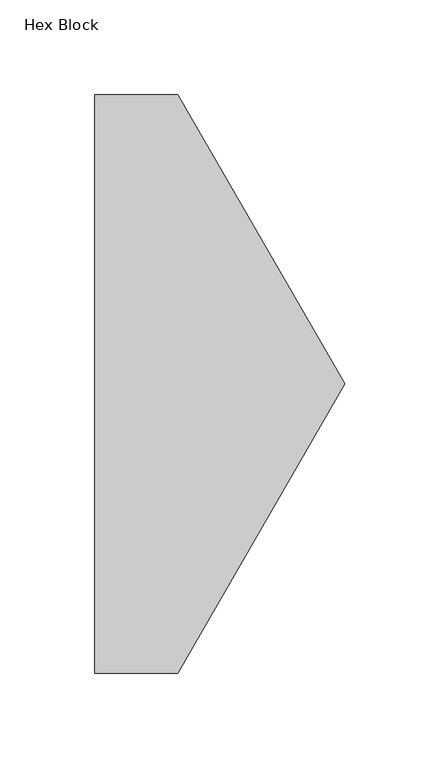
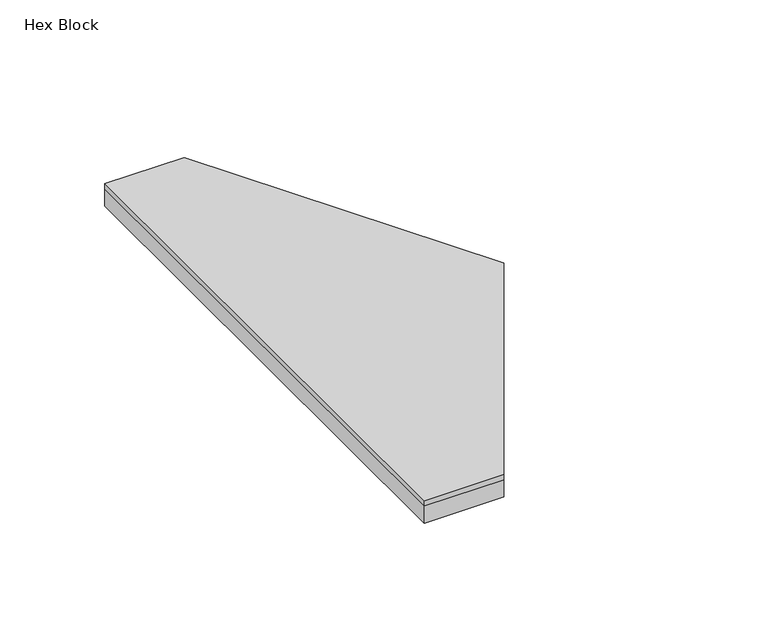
"""IFC4 building model written with IfcOpenShell, lengths in millimetres: proxy geometry, FilzFelt_Hex_Block : Hex Block."""

from ifc_helpers import new_model, si_unit, frame, origin, origin_with_axes, place, context, project, spatial, polyline, outline, extrude, source, transform, mapped, element, save


def hex_block_e6388045(model_context):
    return source(origin(), model_context, "Body", "SweptSolid", [
        extrude(outline(polyline([(87.988181, 152.4), (175.976362, 0.0), (87.988181, -152.4), (44.2024582, -152.4), (44.2024582, 152.4), (87.988181, 152.4)])), frame((0.0, 0.0, 10.0210937), z_axis=(0.0, 0.0, 1.0), x_axis=(1.0, 0.0, 0.0)), (0.0, 0.0, 1.0), 2.9765625),
        extrude(outline(polyline([(175.976362, 0.0), (87.988181, -152.4), (44.2024582, -152.4), (44.2024582, 152.4), (87.988181, 152.4), (175.976362, 0.0)])), origin_with_axes(), (0.0, 0.0, 1.0), 10.0210938),
    ])


if __name__ == "__main__":
    model = new_model("IFC4")
    model_context = context("Model", 3, world=origin())
    ifc_project = project(units=[si_unit("LENGTHUNIT", "METRE", prefix="MILLI")], contexts=[model_context])
    site = spatial("IfcSite", under=ifc_project)
    building = spatial("IfcBuilding", under=site)
    placement = place(None, origin())
    hex_block_shape = hex_block_e6388045(model_context)
    element("IfcBuildingElementProxy", 1, Name="FilzFelt_Hex_Block : Hex Block", ObjectType="FilzFelt_Hex_Block : Hex Block", at=placement, inside=building, context=model_context, shape_type="MappedRepresentation", body=[
        mapped(hex_block_shape, transform((0.0, 0.0, 0.0), x_axis=(1.0, 0.0, 0.0), y_axis=(0.0, 1.0, 0.0), z_axis=(0.0, 0.0, 1.0))),
    ])
    save(model, "model.ifc")
